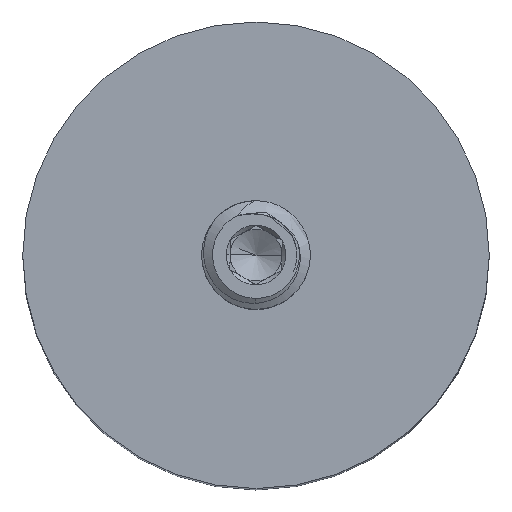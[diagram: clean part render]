
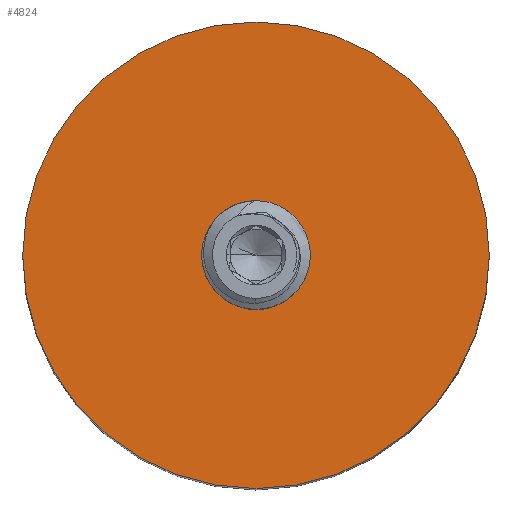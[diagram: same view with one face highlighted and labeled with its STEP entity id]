
A CAD part, top view. The second image highlights one B-rep face of the part: STEP entity #4824.
In plain terms, the highlighted planar face has unit normal (0, 0, 1).
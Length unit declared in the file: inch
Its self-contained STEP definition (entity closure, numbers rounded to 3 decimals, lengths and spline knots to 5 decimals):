
#60 = AXIS2_PLACEMENT_3D ( 'NONE', #533, #4043, #1037 ) ;
#225 = DIRECTION ( 'NONE',  ( 0., 0., 1. ) ) ;
#350 = CARTESIAN_POINT ( 'NONE',  ( 0.35805, 0.61724, 1.66559 ) ) ;
#524 = FACE_OUTER_BOUND ( 'NONE', #1383, .T. ) ;
#533 = CARTESIAN_POINT ( 'NONE',  ( 0.35805, 0.61724, 1.66559 ) ) ;
#597 = CIRCLE ( 'NONE', #60, 0.068 ) ;
#1036 = EDGE_CURVE ( 'NONE', #4407, #6032, #4392, .T. ) ;
#1037 = DIRECTION ( 'NONE',  ( 1., 0., 0. ) ) ;
#1111 = EDGE_LOOP ( 'NONE', ( #4803, #4094 ) ) ;
#1352 = DIRECTION ( 'NONE',  ( 0., 0., -1. ) ) ;
#1383 = EDGE_LOOP ( 'NONE', ( #1810, #5133 ) ) ;
#1472 = CIRCLE ( 'NONE', #4926, 0.068 ) ;
#1482 = AXIS2_PLACEMENT_3D ( 'NONE', #1517, #5021, #2016 ) ;
#1517 = CARTESIAN_POINT ( 'NONE',  ( 0.35805, 0.61724, 1.66559 ) ) ;
#1563 = VERTEX_POINT ( 'NONE', #6120 ) ;
#1618 = EDGE_CURVE ( 'NONE', #6032, #4407, #3059, .T. ) ;
#1810 = ORIENTED_EDGE ( 'NONE', *, *, #1036, .T. ) ;
#1952 = EDGE_CURVE ( 'NONE', #3787, #1563, #1472, .T. ) ;
#2016 = DIRECTION ( 'NONE',  ( 1., 0., 0. ) ) ;
#2129 = CARTESIAN_POINT ( 'NONE',  ( 0.35805, 0.61724, 1.66559 ) ) ;
#2330 = PLANE ( 'NONE',  #5406 ) ;
#2634 = DIRECTION ( 'NONE',  ( 1., 0., 0. ) ) ;
#2693 = CARTESIAN_POINT ( 'NONE',  ( 0.29005, 0.61724, 1.66559 ) ) ;
#2871 = FACE_BOUND ( 'NONE', #1111, .T. ) ;
#3059 = CIRCLE ( 'NONE', #4383, 0.3525 ) ;
#3124 = CARTESIAN_POINT ( 'NONE',  ( 0.71055, 0.61724, 1.66559 ) ) ;
#3225 = CARTESIAN_POINT ( 'NONE',  ( 0.35805, 0.61724, 1.66559 ) ) ;
#3737 = DIRECTION ( 'NONE',  ( 1., 0., 0. ) ) ;
#3787 = VERTEX_POINT ( 'NONE', #2693 ) ;
#3995 = CARTESIAN_POINT ( 'NONE',  ( 0.00555, 0.61724, 1.66559 ) ) ;
#4043 = DIRECTION ( 'NONE',  ( 0., 0., 1. ) ) ;
#4094 = ORIENTED_EDGE ( 'NONE', *, *, #1952, .F. ) ;
#4383 = AXIS2_PLACEMENT_3D ( 'NONE', #2129, #5644, #2634 ) ;
#4392 = CIRCLE ( 'NONE', #1482, 0.3525 ) ;
#4407 = VERTEX_POINT ( 'NONE', #3124 ) ;
#4803 = ORIENTED_EDGE ( 'NONE', *, *, #5333, .F. ) ;
#4824 = ADVANCED_FACE ( 'NONE', ( #2871, #524 ), #2330, .F. ) ;
#4853 = DIRECTION ( 'NONE',  ( -1., 0., 0. ) ) ;
#4926 = AXIS2_PLACEMENT_3D ( 'NONE', #3225, #225, #3737 ) ;
#5021 = DIRECTION ( 'NONE',  ( 0., 0., 1. ) ) ;
#5133 = ORIENTED_EDGE ( 'NONE', *, *, #1618, .T. ) ;
#5333 = EDGE_CURVE ( 'NONE', #1563, #3787, #597, .T. ) ;
#5406 = AXIS2_PLACEMENT_3D ( 'NONE', #350, #1352, #4853 ) ;
#5644 = DIRECTION ( 'NONE',  ( 0., 0., 1. ) ) ;
#6032 = VERTEX_POINT ( 'NONE', #3995 ) ;
#6120 = CARTESIAN_POINT ( 'NONE',  ( 0.42605, 0.61724, 1.66559 ) ) ;
